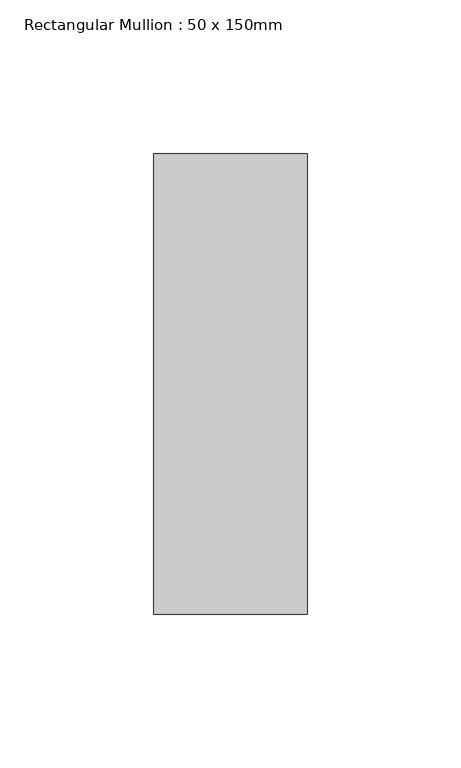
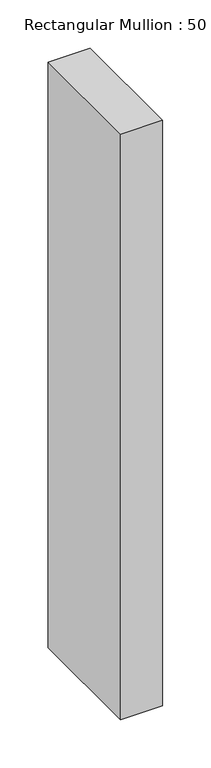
"""IFC4 building model written with IfcOpenShell, lengths in millimetres: member geometry, Rectangular Mullion : 50 x 150mm."""

from ifc_helpers import new_model, si_unit, frame, origin, place, context, project, spatial, polyline, outline, extrude, source, transform, mapped, element, save


def rectangular_mullion_50_x_150mm_3184acce(model_context):
    return source(origin(), model_context, "Body", "SweptSolid", [
        extrude(outline(polyline([(25.0, 75.0), (25.0, -75.0), (-25.0, -75.0), (-25.0, 75.0), (25.0, 75.0)])), frame((0.0, 0.0, -738.3333332), z_axis=(0.0, 0.0, 1.0), x_axis=(1.0, 0.0, 0.0)), (0.0, 0.0, 1.0), 738.3333332),
    ])


if __name__ == "__main__":
    model = new_model("IFC4")
    model_context = context("Model", 3, world=origin())
    ifc_project = project(units=[si_unit("LENGTHUNIT", "METRE", prefix="MILLI")], contexts=[model_context])
    site = spatial("IfcSite", under=ifc_project)
    building = spatial("IfcBuilding", under=site)
    placement = place(None, origin())
    rectangular_mullion_50_x_150mm_shape = rectangular_mullion_50_x_150mm_3184acce(model_context)
    element("IfcMember", 1, ObjectType="Rectangular Mullion : 50 x 150mm", at=placement, inside=building, context=model_context, shape_type="MappedRepresentation", body=[
        mapped(rectangular_mullion_50_x_150mm_shape, transform((0.0, 0.0, 0.0), x_axis=(1.0, 0.0, 0.0), y_axis=(0.0, 1.0, 0.0), z_axis=(0.0, 0.0, 1.0))),
    ])
    save(model, "model.ifc")
